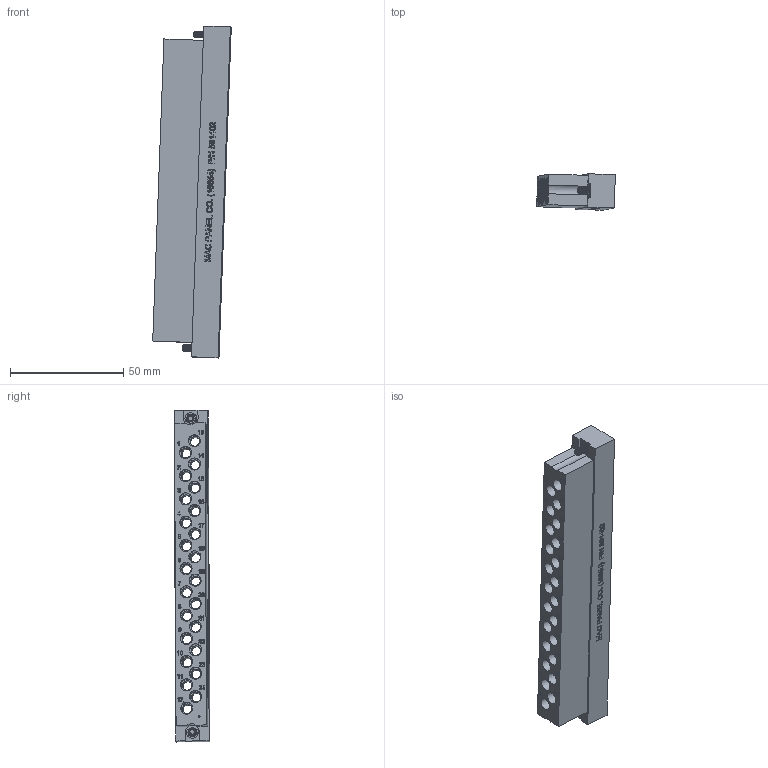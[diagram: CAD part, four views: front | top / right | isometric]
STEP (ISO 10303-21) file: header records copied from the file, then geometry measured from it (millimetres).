
FILE_DESCRIPTION((''),'2;1');
FILE_NAME('C:\old_Drawings\shrinkwrapped website .stp files\561402-STP.stp','2011-05-25T10:15:23',('GaryRobinson'),(''),'Autodesk Inventor 2011','Autodesk Inventor 2011','');
FILE_SCHEMA(('CONFIG_CONTROL_DESIGN'));
Length unit declared in the file: inch
Products named in the file (1): 561402-STP
Bounding box: 34.66 x 15.8 x 146.47 mm (x, y, z)
Surface area: 23183.8 mm2 (no closed solid volume)
Topology: 0 solids, 5 shells, 1113 faces, 2856 edges, 1900 vertices
Faces by surface type: plane 557, bspline 418, cylinder 128, cone 10
Full cylindrical faces by diameter (mm): 0.635 x2, 2.381 x2, 2.845 x12, 3.429 x2, 3.962 x4, 4.064 x2, 4.191 x24, 5.08 x2, 5.334 x24, 5.461 x2, 5.588 x24
Entity records: 37041 total; most frequent: CARTESIAN_POINT 12206, ORIENTED_EDGE 5420, DIRECTION 3460, EDGE_CURVE 2710, VERTEX_POINT 1866, VECTOR 1596, LINE 1596, EDGE_LOOP 1396
